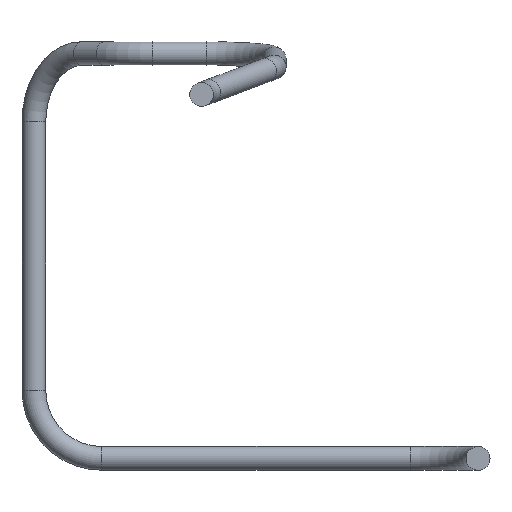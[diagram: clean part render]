
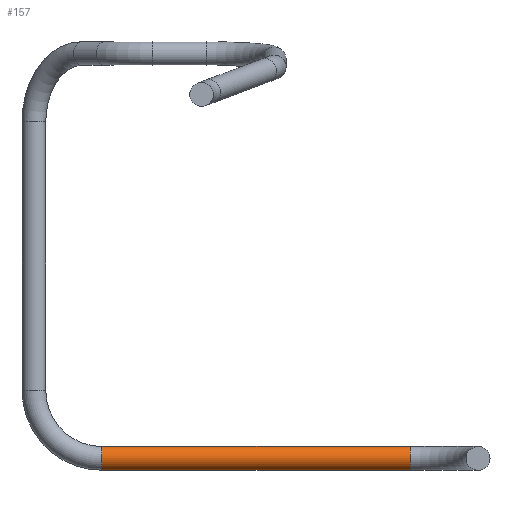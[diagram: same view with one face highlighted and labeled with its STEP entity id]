
A CAD part, front view. The second image highlights one B-rep face of the part: STEP entity #157.
In plain terms, the highlighted cylindrical face has radius 0.525 mm (diameter 1.05 mm), a full revolution.
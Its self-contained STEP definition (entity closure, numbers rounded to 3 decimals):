
#65 = TOROIDAL_SURFACE('',#66,3.,0.525);
#66 = AXIS2_PLACEMENT_3D('',#67,#68,#69);
#67 = CARTESIAN_POINT('',(-17.,44.65,-20.762));
#68 = DIRECTION('',(-0.,-0.,1.));
#69 = DIRECTION('',(1.,0.,0.));
#108 = VERTEX_POINT('',#109);
#109 = CARTESIAN_POINT('',(-17.,47.65,-20.237));
#130 = EDGE_CURVE('',#108,#108,#131,.T.);
#131 = SURFACE_CURVE('',#132,(#137,#144),.PCURVE_S1.);
#132 = CIRCLE('',#133,0.525);
#133 = AXIS2_PLACEMENT_3D('',#134,#135,#136);
#134 = CARTESIAN_POINT('',(-17.,47.65,-20.762));
#135 = DIRECTION('',(1.,0.,0.));
#136 = DIRECTION('',(0.,1.,0.));
#137 = PCURVE('',#65,#138);
#138 = DEFINITIONAL_REPRESENTATION('',(#139),#143);
#139 = LINE('',#140,#141);
#140 = CARTESIAN_POINT('',(1.571,0.));
#141 = VECTOR('',#142,1.);
#142 = DIRECTION('',(0.,1.));
#143 = ( GEOMETRIC_REPRESENTATION_CONTEXT(2) 
PARAMETRIC_REPRESENTATION_CONTEXT() REPRESENTATION_CONTEXT('2D SPACE',''
  ) );
#144 = PCURVE('',#145,#150);
#145 = CYLINDRICAL_SURFACE('',#146,0.525);
#146 = AXIS2_PLACEMENT_3D('',#147,#148,#149);
#147 = CARTESIAN_POINT('',(-17.,47.65,-20.762));
#148 = DIRECTION('',(-1.,0.,0.));
#149 = DIRECTION('',(0.,0.,1.));
#150 = DEFINITIONAL_REPRESENTATION('',(#151),#154);
#151 = B_SPLINE_CURVE_WITH_KNOTS('',1,(#152,#153),.UNSPECIFIED.,.F.,.F.,
  (2,2),(1.571,7.854),.PIECEWISE_BEZIER_KNOTS.);
#152 = CARTESIAN_POINT('',(6.283,0.));
#153 = CARTESIAN_POINT('',(0.,0.));
#154 = ( GEOMETRIC_REPRESENTATION_CONTEXT(2) 
PARAMETRIC_REPRESENTATION_CONTEXT() REPRESENTATION_CONTEXT('2D SPACE',''
  ) );
#157 = ADVANCED_FACE('',(#158),#145,.T.);
#158 = FACE_BOUND('',#159,.T.);
#159 = EDGE_LOOP('',(#160,#182,#208,#209));
#160 = ORIENTED_EDGE('',*,*,#161,.T.);
#161 = EDGE_CURVE('',#108,#162,#164,.T.);
#162 = VERTEX_POINT('',#163);
#163 = CARTESIAN_POINT('',(-30.6,47.65,-20.237));
#164 = SEAM_CURVE('',#165,(#169,#175),.PCURVE_S1.);
#165 = LINE('',#166,#167);
#166 = CARTESIAN_POINT('',(-17.,47.65,-20.237));
#167 = VECTOR('',#168,1.);
#168 = DIRECTION('',(-1.,0.,0.));
#169 = PCURVE('',#145,#170);
#170 = DEFINITIONAL_REPRESENTATION('',(#171),#174);
#171 = B_SPLINE_CURVE_WITH_KNOTS('',1,(#172,#173),.UNSPECIFIED.,.F.,.F.,
  (2,2),(0.,13.6),.PIECEWISE_BEZIER_KNOTS.);
#172 = CARTESIAN_POINT('',(6.283,0.));
#173 = CARTESIAN_POINT('',(6.283,13.6));
#174 = ( GEOMETRIC_REPRESENTATION_CONTEXT(2) 
PARAMETRIC_REPRESENTATION_CONTEXT() REPRESENTATION_CONTEXT('2D SPACE',''
  ) );
#175 = PCURVE('',#145,#176);
#176 = DEFINITIONAL_REPRESENTATION('',(#177),#181);
#177 = LINE('',#178,#179);
#178 = CARTESIAN_POINT('',(0.,0.));
#179 = VECTOR('',#180,1.);
#180 = DIRECTION('',(0.,1.));
#181 = ( GEOMETRIC_REPRESENTATION_CONTEXT(2) 
PARAMETRIC_REPRESENTATION_CONTEXT() REPRESENTATION_CONTEXT('2D SPACE',''
  ) );
#182 = ORIENTED_EDGE('',*,*,#183,.F.);
#183 = EDGE_CURVE('',#162,#162,#184,.T.);
#184 = SURFACE_CURVE('',#185,(#190,#197),.PCURVE_S1.);
#185 = CIRCLE('',#186,0.525);
#186 = AXIS2_PLACEMENT_3D('',#187,#188,#189);
#187 = CARTESIAN_POINT('',(-30.6,47.65,-20.762));
#188 = DIRECTION('',(-1.,0.,0.));
#189 = DIRECTION('',(0.,0.,1.));
#190 = PCURVE('',#145,#191);
#191 = DEFINITIONAL_REPRESENTATION('',(#192),#196);
#192 = LINE('',#193,#194);
#193 = CARTESIAN_POINT('',(0.,13.6));
#194 = VECTOR('',#195,1.);
#195 = DIRECTION('',(1.,0.));
#196 = ( GEOMETRIC_REPRESENTATION_CONTEXT(2) 
PARAMETRIC_REPRESENTATION_CONTEXT() REPRESENTATION_CONTEXT('2D SPACE',''
  ) );
#197 = PCURVE('',#198,#203);
#198 = TOROIDAL_SURFACE('',#199,3.,0.525);
#199 = AXIS2_PLACEMENT_3D('',#200,#201,#202);
#200 = CARTESIAN_POINT('',(-30.6,47.65,-17.762));
#201 = DIRECTION('',(0.,1.,0.));
#202 = DIRECTION('',(0.,0.,-1.));
#203 = DEFINITIONAL_REPRESENTATION('',(#204),#207);
#204 = B_SPLINE_CURVE_WITH_KNOTS('',1,(#205,#206),.UNSPECIFIED.,.F.,.F.,
  (2,2),(0.,6.283),.PIECEWISE_BEZIER_KNOTS.);
#205 = CARTESIAN_POINT('',(0.,9.425));
#206 = CARTESIAN_POINT('',(0.,3.142));
#207 = ( GEOMETRIC_REPRESENTATION_CONTEXT(2) 
PARAMETRIC_REPRESENTATION_CONTEXT() REPRESENTATION_CONTEXT('2D SPACE',''
  ) );
#208 = ORIENTED_EDGE('',*,*,#161,.F.);
#209 = ORIENTED_EDGE('',*,*,#130,.F.);
